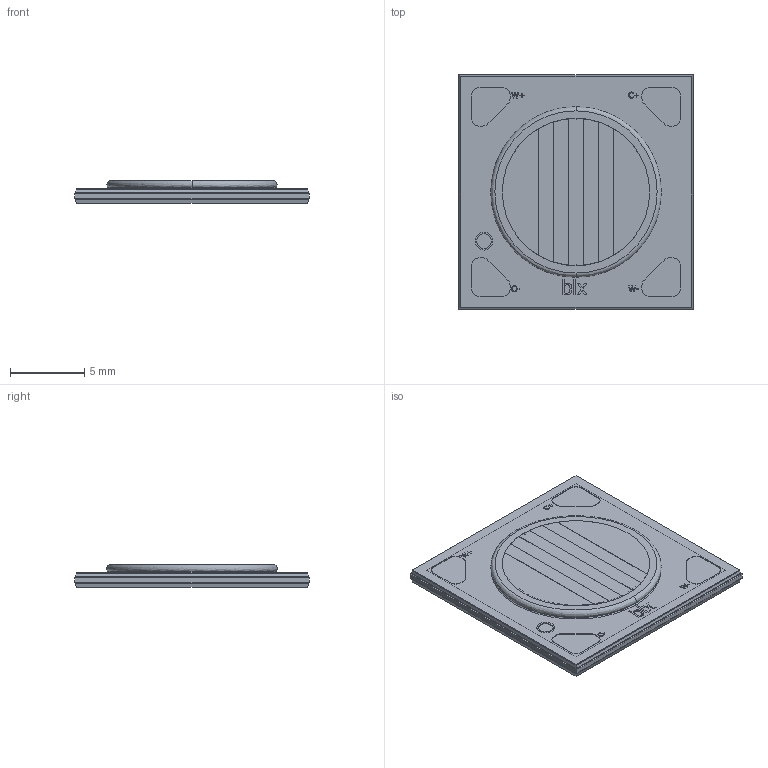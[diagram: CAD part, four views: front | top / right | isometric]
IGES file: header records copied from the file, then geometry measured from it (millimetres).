
Start section: SolidWorks IGES file using analytic representation for surfaces
Global section: file name: C:\Users\michael.solomensky\Desktop\BLX projects\COB\NTW9\DPTW-9.IGS; native system: SolidWorks 2018; preprocessor: SolidWorks 2018; author: michael.solomensky; date: 190327.165210; units: millimetre
Bounding box: 15.85 x 15.85 x 1.54 mm (x, y, z)
Volume: 301.3 mm3; surface area: 2298.1 mm2
Topology: 18 solids, 18 shells, 389 faces, 990 edges, 650 vertices
Faces by surface type: plane 241, revolution 108, bspline 40
